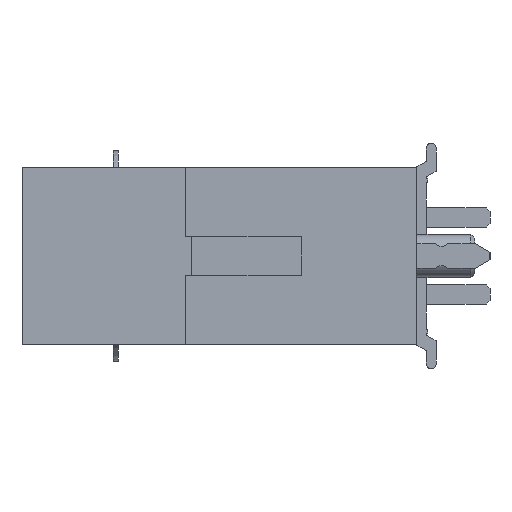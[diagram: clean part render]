
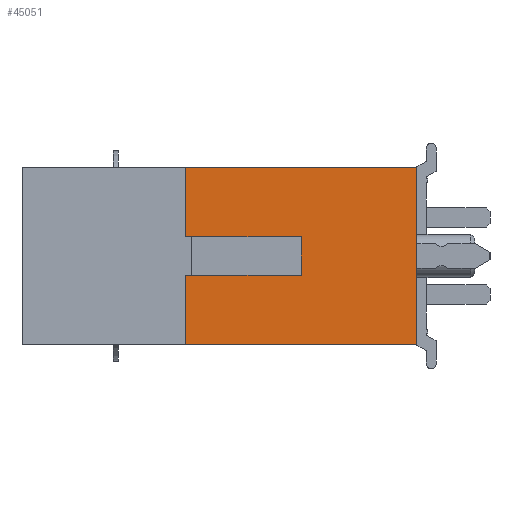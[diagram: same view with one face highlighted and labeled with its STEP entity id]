
A CAD part, left-side view. The second image highlights one B-rep face of the part: STEP entity #45051.
In plain terms, the highlighted planar face has unit normal (-1, 0, 0).
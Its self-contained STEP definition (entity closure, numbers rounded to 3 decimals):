
#1082=ORIENTED_EDGE('',*,*,#14609,.F.);
#1083=ORIENTED_EDGE('',*,*,#14610,.T.);
#1084=ORIENTED_EDGE('',*,*,#14611,.T.);
#1085=ORIENTED_EDGE('',*,*,#14547,.T.);
#1086=ORIENTED_EDGE('',*,*,#14371,.T.);
#1087=ORIENTED_EDGE('',*,*,#14574,.F.);
#1088=ORIENTED_EDGE('',*,*,#14496,.T.);
#1089=ORIENTED_EDGE('',*,*,#14612,.F.);
#14371=EDGE_CURVE('',#21160,#21159,#25683,.T.);
#14496=EDGE_CURVE('',#21268,#21266,#25808,.T.);
#14547=EDGE_CURVE('',#21306,#21160,#25859,.T.);
#14574=EDGE_CURVE('',#21268,#21159,#25886,.T.);
#14609=EDGE_CURVE('',#21350,#21351,#25921,.T.);
#14610=EDGE_CURVE('',#21350,#21352,#25922,.T.);
#14611=EDGE_CURVE('',#21352,#21306,#25923,.T.);
#14612=EDGE_CURVE('',#21351,#21266,#25924,.T.);
#21159=VERTEX_POINT('',#62147);
#21160=VERTEX_POINT('',#62149);
#21266=VERTEX_POINT('',#62401);
#21268=VERTEX_POINT('',#62404);
#21306=VERTEX_POINT('',#62496);
#21350=VERTEX_POINT('',#62604);
#21351=VERTEX_POINT('',#62605);
#21352=VERTEX_POINT('',#62607);
#25683=LINE('',#62148,#32046);
#25808=LINE('',#62403,#32171);
#25859=LINE('',#62495,#32222);
#25886=LINE('',#62545,#32249);
#25921=LINE('',#62603,#32284);
#25922=LINE('',#62606,#32285);
#25923=LINE('',#62608,#32286);
#25924=LINE('',#62609,#32287);
#32046=VECTOR('',#50228,1000.);
#32171=VECTOR('',#50397,1000.);
#32222=VECTOR('',#50454,1000.);
#32249=VECTOR('',#50483,1000.);
#32284=VECTOR('',#50520,1000.);
#32285=VECTOR('',#50521,1000.);
#32286=VECTOR('',#50522,1000.);
#32287=VECTOR('',#50523,1000.);
#38350=EDGE_LOOP('',(#1082,#1083,#1084,#1085,#1086,#1087,#1088,#1089));
#40667=FACE_BOUND('',#38350,.T.);
#42968=PLANE('',#47421);
#45051=ADVANCED_FACE('',(#40667),#42968,.F.);
#47421=AXIS2_PLACEMENT_3D('',#62602,#50518,#50519);
#50228=DIRECTION('',(0.,0.,1.));
#50397=DIRECTION('',(0.,0.,-1.));
#50454=DIRECTION('',(0.,-1.,0.));
#50483=DIRECTION('',(0.,-1.,0.));
#50518=DIRECTION('',(1.,0.,0.));
#50519=DIRECTION('',(0.,0.,-1.));
#50520=DIRECTION('',(0.,0.,1.));
#50521=DIRECTION('',(0.,1.,0.));
#50522=DIRECTION('',(0.,0.,-1.));
#50523=DIRECTION('',(0.,1.,0.));
#62147=CARTESIAN_POINT('',(-17.69,0.,2.3));
#62148=CARTESIAN_POINT('',(-17.69,0.,-2.3));
#62149=CARTESIAN_POINT('',(-17.69,0.,-2.3));
#62401=CARTESIAN_POINT('',(-17.69,6.,0.5));
#62403=CARTESIAN_POINT('',(-17.69,6.,2.3));
#62404=CARTESIAN_POINT('',(-17.69,6.,2.3));
#62495=CARTESIAN_POINT('',(-17.69,10.25,-2.3));
#62496=CARTESIAN_POINT('',(-17.69,6.,-2.3));
#62545=CARTESIAN_POINT('',(-17.69,10.25,2.3));
#62602=CARTESIAN_POINT('',(-17.69,10.25,-2.3));
#62603=CARTESIAN_POINT('',(-17.69,3.,-0.5));
#62604=CARTESIAN_POINT('',(-17.69,3.,-0.5));
#62605=CARTESIAN_POINT('',(-17.69,3.,0.5));
#62606=CARTESIAN_POINT('',(-17.69,3.,-0.5));
#62607=CARTESIAN_POINT('',(-17.69,6.,-0.5));
#62608=CARTESIAN_POINT('',(-17.69,6.,2.3));
#62609=CARTESIAN_POINT('',(-17.69,3.,0.5));
